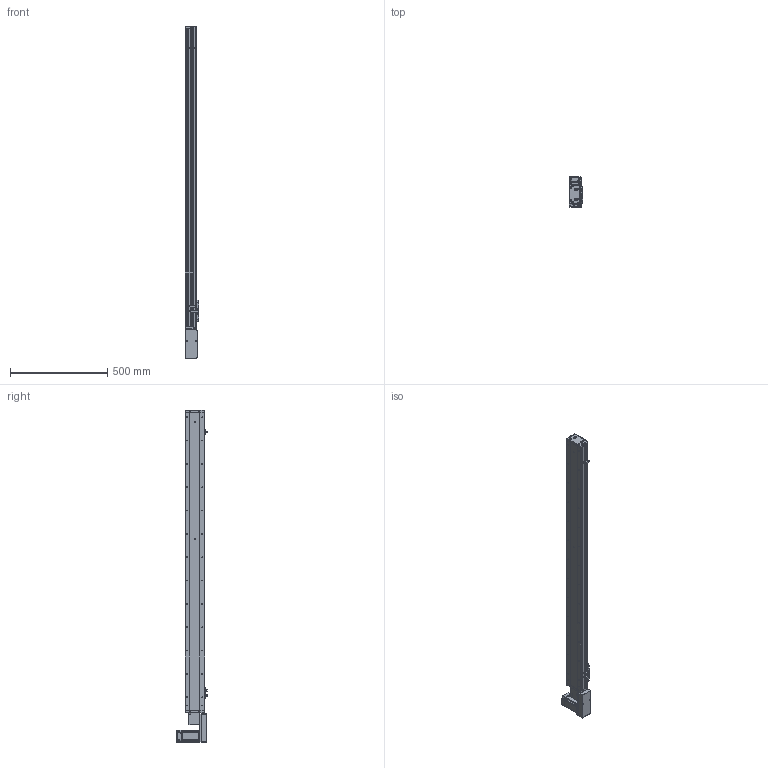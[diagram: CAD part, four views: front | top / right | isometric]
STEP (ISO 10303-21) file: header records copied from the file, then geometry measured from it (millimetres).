
FILE_DESCRIPTION (( 'STEP AP214' ), '1' );
FILE_NAME ('KSD100B-S1350-MRB-CR.STEP', '2019-11-13T06:25:21', ( '微软用户' ), ( '微软中国' ), 'SwSTEP 2.0', 'SolidWorks 2014', '' );
FILE_SCHEMA (( 'AUTOMOTIVE_DESIGN' ));
Length unit declared in the file: millimetre
Products named in the file (15): 100宽马达安装板连板上下折丝杆同步带; U倰嫖萇EEㄜSX672; 感应片100宽全封闭; 100宽马达安装板同步带右; 100遵鎮湛假蚾啣蜊; 100宽端板同步带全封闭; 100宽滚珠螺姆安装板1防护罩; 100宽滚珠螺姆安装板1; 100遵裔啣揤啣; 100遵裔啣1350俴最; 100宽侧板1350行程同步带; 100宽底板全封闭1350行程同步带; KSD100B-S1350-MRB-CR; MHMD042G1CA_2_03; 悵誘欶奻狟殏
Assembly tree (18 placements, depth 2):
  KSD100B-S1350-MRB-CR
    100宽底板全封闭1350行程同步带
    100宽侧板1350行程同步带  x2
    100遵裔啣1350俴最
    100遵裔啣揤啣  x2
    100宽滚珠螺姆安装板1
    100宽滚珠螺姆安装板1防护罩
    100宽端板同步带全封闭
    100遵鎮湛假蚾啣蜊
    100宽马达安装板同步带右
    感应片100宽全封闭
    U倰嫖萇EEㄜSX672  x3
    100宽马达安装板连板上下折丝杆同步带
    悵誘欶奻狟殏
    MHMD042G1CA_2_03
Bounding box: 70 x 156.2 x 1707 mm (x, y, z)
Volume: 3126492.4 mm3; surface area: 1372658.1 mm2
Topology: 17 solids, 18 shells, 1945 faces, 5444 edges, 3449 vertices
Faces by surface type: cylinder 889, plane 741, cone 295, bspline 20
Entity records: 69148 total; most frequent: CARTESIAN_POINT 10734, DIRECTION 9458, ORIENTED_EDGE 8692, EDGE_CURVE 4418, AXIS2_PLACEMENT_3D 3455, VERTEX_POINT 2927, VECTOR 2548, LINE 2548
